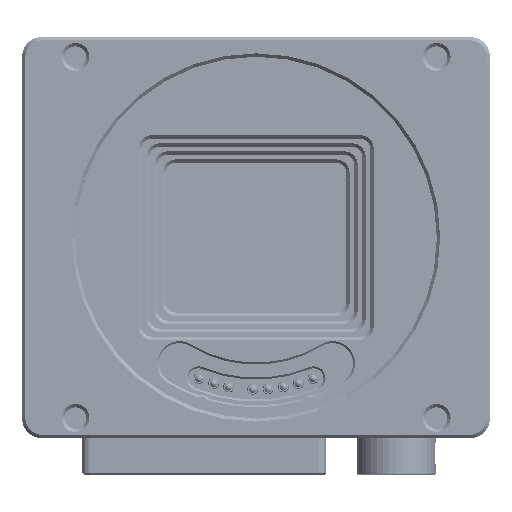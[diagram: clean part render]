
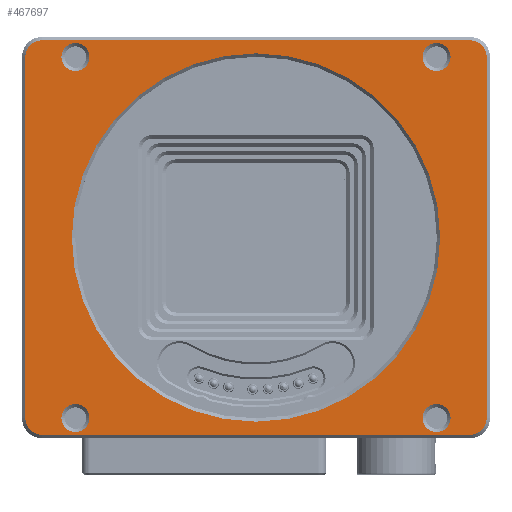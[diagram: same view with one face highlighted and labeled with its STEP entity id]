
A CAD part, top view. The second image highlights one B-rep face of the part: STEP entity #467697.
In plain terms, the highlighted planar face has unit normal (0, 0, 1).
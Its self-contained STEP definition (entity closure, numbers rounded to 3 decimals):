
#77155=LINE('',#1263008,#157056);
#77156=LINE('',#1263012,#157057);
#77157=LINE('',#1263016,#157058);
#77158=LINE('',#1263020,#157059);
#157056=VECTOR('',#1062891,1.);
#157057=VECTOR('',#1062894,1.);
#157058=VECTOR('',#1062897,1.);
#157059=VECTOR('',#1062900,1.);
#397450=PLANE('',#942076);
#467697=ADVANCED_FACE('',(#497187,#497188,#497189,#497190,#497191,#497192),
#397450,.T.);
#497187=FACE_BOUND('',#520821,.T.);
#497188=FACE_BOUND('',#520822,.T.);
#497189=FACE_BOUND('',#520823,.T.);
#497190=FACE_BOUND('',#520824,.T.);
#497191=FACE_BOUND('',#520825,.T.);
#497192=FACE_BOUND('',#520826,.T.);
#520821=EDGE_LOOP('',(#636182));
#520822=EDGE_LOOP('',(#636183));
#520823=EDGE_LOOP('',(#636184));
#520824=EDGE_LOOP('',(#636185));
#520825=EDGE_LOOP('',(#636186,#636187,#636188,#636189,#636190,#636191,#636192,
#636193));
#520826=EDGE_LOOP('',(#636194));
#636182=ORIENTED_EDGE('',*,*,#853177,.T.);
#636183=ORIENTED_EDGE('',*,*,#853178,.T.);
#636184=ORIENTED_EDGE('',*,*,#853179,.T.);
#636185=ORIENTED_EDGE('',*,*,#853180,.T.);
#636186=ORIENTED_EDGE('',*,*,#853181,.T.);
#636187=ORIENTED_EDGE('',*,*,#853182,.T.);
#636188=ORIENTED_EDGE('',*,*,#853183,.T.);
#636189=ORIENTED_EDGE('',*,*,#853184,.T.);
#636190=ORIENTED_EDGE('',*,*,#853185,.T.);
#636191=ORIENTED_EDGE('',*,*,#853186,.T.);
#636192=ORIENTED_EDGE('',*,*,#853187,.T.);
#636193=ORIENTED_EDGE('',*,*,#853188,.T.);
#636194=ORIENTED_EDGE('',*,*,#853189,.T.);
#771866=VERTEX_POINT('',#1262998);
#771867=VERTEX_POINT('',#1263000);
#771868=VERTEX_POINT('',#1263002);
#771869=VERTEX_POINT('',#1263004);
#771870=VERTEX_POINT('',#1263006);
#771871=VERTEX_POINT('',#1263007);
#771872=VERTEX_POINT('',#1263009);
#771873=VERTEX_POINT('',#1263011);
#771874=VERTEX_POINT('',#1263013);
#771875=VERTEX_POINT('',#1263015);
#771876=VERTEX_POINT('',#1263017);
#771877=VERTEX_POINT('',#1263019);
#771878=VERTEX_POINT('',#1263022);
#853177=EDGE_CURVE('',#771866,#771866,#909671,.T.);
#853178=EDGE_CURVE('',#771867,#771867,#909672,.T.);
#853179=EDGE_CURVE('',#771868,#771868,#909673,.T.);
#853180=EDGE_CURVE('',#771869,#771869,#909674,.T.);
#853181=EDGE_CURVE('',#771870,#771871,#909675,.T.);
#853182=EDGE_CURVE('',#771871,#771872,#77155,.T.);
#853183=EDGE_CURVE('',#771872,#771873,#909676,.T.);
#853184=EDGE_CURVE('',#771873,#771874,#77156,.T.);
#853185=EDGE_CURVE('',#771874,#771875,#909677,.T.);
#853186=EDGE_CURVE('',#771875,#771876,#77157,.T.);
#853187=EDGE_CURVE('',#771876,#771877,#909678,.T.);
#853188=EDGE_CURVE('',#771877,#771870,#77158,.T.);
#853189=EDGE_CURVE('',#771878,#771878,#909679,.T.);
#909671=CIRCLE('',#942067,2.1);
#909672=CIRCLE('',#942068,2.1);
#909673=CIRCLE('',#942069,2.1);
#909674=CIRCLE('',#942070,2.1);
#909675=CIRCLE('',#942071,2.5);
#909676=CIRCLE('',#942072,2.5);
#909677=CIRCLE('',#942073,2.5);
#909678=CIRCLE('',#942074,2.5);
#909679=CIRCLE('',#942075,27.55);
#942067=AXIS2_PLACEMENT_3D('',#1262997,#1062881,#1062882);
#942068=AXIS2_PLACEMENT_3D('',#1262999,#1062883,#1062884);
#942069=AXIS2_PLACEMENT_3D('',#1263001,#1062885,#1062886);
#942070=AXIS2_PLACEMENT_3D('',#1263003,#1062887,#1062888);
#942071=AXIS2_PLACEMENT_3D('',#1263005,#1062889,#1062890);
#942072=AXIS2_PLACEMENT_3D('',#1263010,#1062892,#1062893);
#942073=AXIS2_PLACEMENT_3D('',#1263014,#1062895,#1062896);
#942074=AXIS2_PLACEMENT_3D('',#1263018,#1062898,#1062899);
#942075=AXIS2_PLACEMENT_3D('',#1263021,#1062901,#1062902);
#942076=AXIS2_PLACEMENT_3D('',#1263023,#1062903,#1062904);
#1062881=DIRECTION('',(0.,0.,-1.));
#1062882=DIRECTION('',(1.,0.,0.));
#1062883=DIRECTION('',(0.,0.,-1.));
#1062884=DIRECTION('',(1.,0.,0.));
#1062885=DIRECTION('',(0.,0.,-1.));
#1062886=DIRECTION('',(1.,0.,0.));
#1062887=DIRECTION('',(0.,0.,-1.));
#1062888=DIRECTION('',(1.,0.,0.));
#1062889=DIRECTION('',(0.,0.,1.));
#1062890=DIRECTION('',(1.,0.,0.));
#1062891=DIRECTION('',(1.,0.,0.));
#1062892=DIRECTION('',(0.,0.,1.));
#1062893=DIRECTION('',(1.,0.,0.));
#1062894=DIRECTION('',(0.,1.,0.));
#1062895=DIRECTION('',(0.,0.,1.));
#1062896=DIRECTION('',(1.,0.,0.));
#1062897=DIRECTION('',(-1.,0.,0.));
#1062898=DIRECTION('',(0.,0.,1.));
#1062899=DIRECTION('',(1.,0.,0.));
#1062900=DIRECTION('',(0.,-1.,0.));
#1062901=DIRECTION('',(0.,0.,-1.));
#1062902=DIRECTION('',(1.,0.,0.));
#1062903=DIRECTION('',(0.,0.,1.));
#1062904=DIRECTION('',(1.,0.,0.));
#1262997=CARTESIAN_POINT('',(27.,-27.,0.));
#1262998=CARTESIAN_POINT('',(29.1,-27.,0.));
#1262999=CARTESIAN_POINT('',(27.,27.,0.));
#1263000=CARTESIAN_POINT('',(29.1,27.,0.));
#1263001=CARTESIAN_POINT('',(-27.,27.,0.));
#1263002=CARTESIAN_POINT('',(-24.9,27.,0.));
#1263003=CARTESIAN_POINT('',(-27.,-27.,0.));
#1263004=CARTESIAN_POINT('',(-24.9,-27.,0.));
#1263005=CARTESIAN_POINT('',(-32.,-27.,0.));
#1263006=CARTESIAN_POINT('',(-34.5,-27.,0.));
#1263007=CARTESIAN_POINT('',(-32.,-29.5,0.));
#1263008=CARTESIAN_POINT('',(32.,-29.5,0.));
#1263009=CARTESIAN_POINT('',(32.,-29.5,0.));
#1263010=CARTESIAN_POINT('',(32.,-27.,0.));
#1263011=CARTESIAN_POINT('',(34.5,-27.,0.));
#1263012=CARTESIAN_POINT('',(34.5,27.,0.));
#1263013=CARTESIAN_POINT('',(34.5,27.,0.));
#1263014=CARTESIAN_POINT('',(32.,27.,0.));
#1263015=CARTESIAN_POINT('',(32.,29.5,0.));
#1263016=CARTESIAN_POINT('',(-32.,29.5,0.));
#1263017=CARTESIAN_POINT('',(-32.,29.5,0.));
#1263018=CARTESIAN_POINT('',(-32.,27.,0.));
#1263019=CARTESIAN_POINT('',(-34.5,27.,0.));
#1263020=CARTESIAN_POINT('',(-34.5,-27.,0.));
#1263021=CARTESIAN_POINT('',(0.,0.,0.));
#1263022=CARTESIAN_POINT('',(27.55,0.,0.));
#1263023=CARTESIAN_POINT('',(0.,0.,0.));
